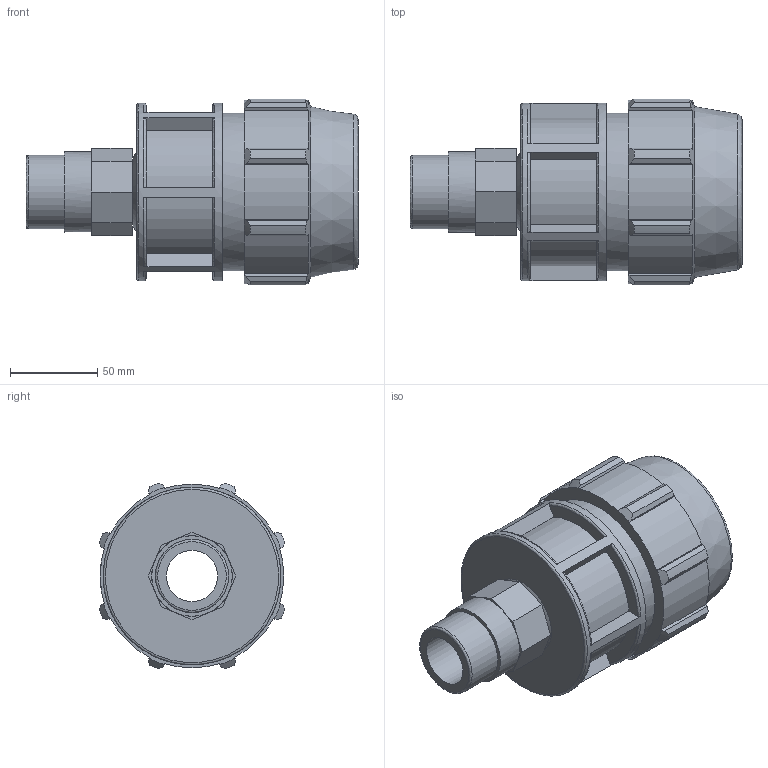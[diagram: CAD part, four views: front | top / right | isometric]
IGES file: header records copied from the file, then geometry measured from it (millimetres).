
Global section: file name: 077200063013__0772060630130A.ipt; native system: Autodesk Inventor 2015; preprocessor: unknown; author: KIM; date: 20170606.174308; units: millimetre
Bounding box: 190 x 106.32 x 106.32 mm (x, y, z)
Volume: 574598.4 mm3; surface area: 106761.6 mm2
Topology: 1 solids, 1 shells, 137 faces, 367 edges, 244 vertices
Faces by surface type: plane 81, cylinder 26, revolution 19, cone 11
Full cylindrical faces by diameter (mm): 41.91 x1, 46.101 x1, 90.4 x1, 101.7 x1
